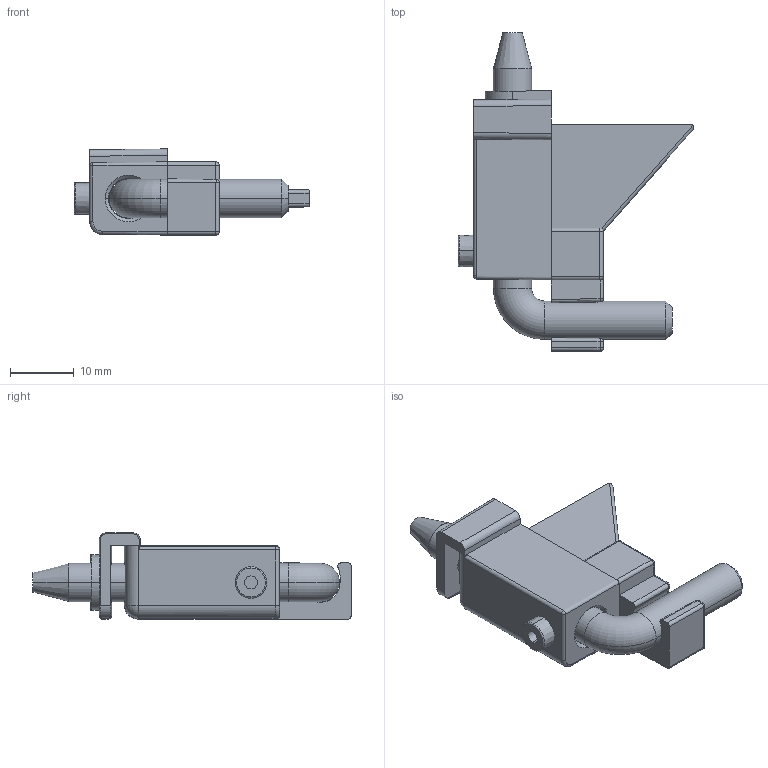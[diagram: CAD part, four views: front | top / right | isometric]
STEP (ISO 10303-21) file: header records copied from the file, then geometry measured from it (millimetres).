
FILE_DESCRIPTION (( 'STEP AP214' ), '1' );
FILE_NAME ('3.ST96.001.STEP', '2025-06-03T07:12:05', ( '' ), ( '' ), 'SwSTEP 2.0', 'SolidWorks 2021', '' );
FILE_SCHEMA (( 'AUTOMOTIVE_DESIGN' ));
Length unit declared in the file: millimetre
Products named in the file (3): 3.ST96.001; 3.ST96.001.02_B; 3.ST96.001.01_A
Assembly tree (2 placements, depth 2):
  3.ST96.001
    3.ST96.001.01_A
    3.ST96.001.02_B
Bounding box: 36.9 x 49.84 x 13.49 mm (x, y, z)
Volume: 6644.2 mm3; surface area: 4994.3 mm2
Topology: 2 solids, 2 shells, 115 faces, 273 edges, 160 vertices
Faces by surface type: cylinder 42, plane 37, torus 10, cone 10, sphere 9, bspline 7
Entity records: 3796 total; most frequent: CARTESIAN_POINT 1007, ORIENTED_EDGE 536, DIRECTION 523, EDGE_CURVE 268, AXIS2_PLACEMENT_3D 196, VERTEX_POINT 160, LINE 131, VECTOR 131
